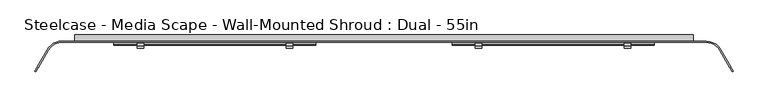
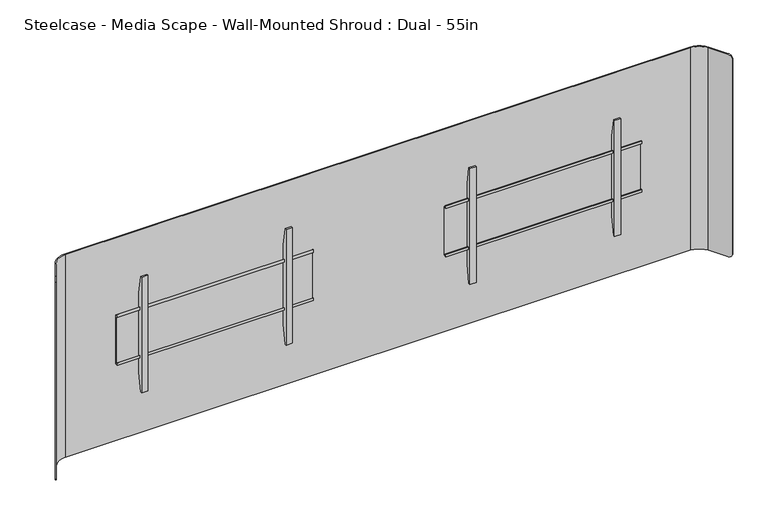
"""IFC4 building model written with IfcOpenShell, lengths in millimetres: furniture geometry, Steelcase - Media Scape - Wall-Mounted Shroud : Dual - 55in."""

from ifc_helpers import new_model, si_unit, frame, origin, place, context, project, spatial, polyline, circle_curve, outline, extrude, source, transform, mapped, element, save
from ifc_brep_helpers import plane_surface, cylinder_surface, revolved_surface, advanced_brep


def steelcase_media_scape_wall_mounted_shroud_dual_55in_971d0c28(model_context):
    return source(origin(), model_context, "Body", "SolidModel", [
        extrude(outline(polyline([(-42.4942785, 1383.7004726), (-42.4942785, 1395.7145649), (-39.8272175, 1395.7145649), (-39.8272175, 1386.367461), (-29.9720009, 1386.367461), (-29.9720009, 1172.0422438), (-42.3164551, 1172.0422438), (-42.3164551, 1182.9642515), (-39.649394, 1182.9642515), (-39.649394, 1174.707052), (-32.6531824, 1174.707052), (-32.6531824, 1383.7004726), (-42.4942785, 1383.7004726)])), frame((274.574, 0.0, 0.0), z_axis=(1.0, 0.0, 0.0), x_axis=(0.0, 1.0, 0.0)), (0.0, 0.0, 1.0), 812.8),
        extrude(outline(polyline([(-32.6531824, 1454.6471148), (-32.6531824, 1102.8325607), (-46.5049349, 1025.2046949), (-53.3399828, 1025.2046949), (-53.3399828, 1533.2047192), (-46.5050076, 1533.2047192), (-32.6531824, 1454.6471148)])), frame((368.175426, 0.0, 0.0), z_axis=(1.0, 0.0, 0.0), x_axis=(0.0, 1.0, 0.0)), (0.0, 0.0, 1.0), 26.1592872),
        extrude(outline(polyline([(-32.6531824, 1454.6471148), (-32.6531824, 1102.8325607), (-46.5049349, 1025.2046949), (-53.3399828, 1025.2046949), (-53.3399828, 1533.2047192), (-46.5050076, 1533.2047192), (-32.6531824, 1454.6471148)])), frame((967.6132868, 0.0, 0.0), z_axis=(1.0, 0.0, 0.0), x_axis=(0.0, 1.0, 0.0)), (0.0, 0.0, 1.0), 26.1592872),
        extrude(outline(polyline([(-42.4942785, 1383.7004726), (-42.4942785, 1395.7145649), (-39.8272175, 1395.7145649), (-39.8272175, 1386.367461), (-29.9720009, 1386.367461), (-29.9720009, 1172.0422438), (-42.3164551, 1172.0422438), (-42.3164551, 1182.9642515), (-39.649394, 1182.9642515), (-39.649394, 1174.707052), (-32.6531824, 1174.707052), (-32.6531824, 1383.7004726), (-42.4942785, 1383.7004726)])), frame((-1087.374, 0.0, 0.0), z_axis=(1.0, 0.0, 0.0), x_axis=(0.0, 1.0, 0.0)), (0.0, 0.0, 1.0), 812.8),
        extrude(outline(polyline([(-32.6531824, 1454.6471148), (-32.6531824, 1102.8325607), (-46.5049349, 1025.2046949), (-53.3399828, 1025.2046949), (-53.3399828, 1533.2047192), (-46.5050076, 1533.2047192), (-32.6531824, 1454.6471148)])), frame((-394.3347132, 0.0, 0.0), z_axis=(1.0, 0.0, 0.0), x_axis=(0.0, 1.0, 0.0)), (0.0, 0.0, 1.0), 26.1592872),
        extrude(outline(polyline([(-32.6531824, 1454.6471148), (-32.6531824, 1102.8325607), (-46.5049349, 1025.2046949), (-53.3399828, 1025.2046949), (-53.3399828, 1533.2047192), (-46.5050076, 1533.2047192), (-32.6531824, 1454.6471148)])), frame((-993.772574, 0.0, 0.0), z_axis=(1.0, 0.0, 0.0), x_axis=(0.0, 1.0, 0.0)), (0.0, 0.0, 1.0), 26.1592872),
        advanced_brep(
        [(-1351.4086135, -61.722, 1724.914), (-1296.416002, -29.9720009, 1724.914), (1296.416, -29.9720009, 1724.914), (1351.4086135, -61.722, 1724.914), (1391.529586, -131.2135628, 1724.914), (1395.4890541, -128.9275628, 1724.914), (1355.3680817, -59.436, 1724.914), (1296.416002, -25.4, 1724.914), (-1296.416, -25.4, 1724.914), (-1355.3680817, -59.436, 1724.914), (-1395.4921659, -128.9329524, 1724.914), (-1391.5326977, -131.2189524, 1724.914), (-1355.3680817, -59.436, 835.914), (-1296.416002, -25.4, 835.914), (1296.416, -25.4, 835.914), (1355.3680817, -59.436, 835.914), (1395.5406629, -129.0169518, 835.914), (1391.5811948, -131.3029518, 835.914), (1351.4086135, -61.722, 835.914), (1296.416002, -29.9720009, 835.914), (-1296.416, -29.9720009, 835.914), (-1351.4086135, -61.722, 835.914), (-1391.5954014, -131.3275584, 835.914), (-1395.5548695, -129.0415584, 835.914), (-1405.0590632, -145.5033047, 849.5242766), (-1405.0590632, -145.5033047, 1710.9227735), (-1401.0995951, -147.7893047, 1710.9227735), (-1401.0995951, -147.7893047, 849.5242766), (1401.0770866, -147.7503189, 849.4756893), (1401.0770866, -147.7503189, 1711.0433849), (1405.0365547, -145.4643189, 1711.0433849), (1405.0365547, -145.4643189, 849.4756893)],
        [
            (0, 1, circle_curve(frame((-1296.416002, -93.4719991, 1724.914), z_axis=(0.0, 0.0, -1.0), x_axis=(0.0, 1.0, 0.0)), 63.4999981)),
            (1, 2),
            (2, 3, circle_curve(frame((1296.416002, -93.4719991, 1724.914), z_axis=(0.0, 0.0, -1.0), x_axis=(0.0, 1.0, 0.0)), 63.4999981)),
            (3, 4),
            (4, 5),
            (5, 6),
            (6, 7, circle_curve(frame((1296.4160004, -93.472, 1724.914), z_axis=(0.0, 0.0, 1.0), x_axis=(0.0, 1.0, 0.0)), 68.072)),
            (7, 8),
            (8, 9, circle_curve(frame((-1296.4160004, -93.472, 1724.914), z_axis=(0.0, 0.0, 1.0), x_axis=(0.0, 1.0, 0.0)), 68.072)),
            (9, 10),
            (10, 11),
            (11, 0),
            (12, 13, circle_curve(frame((-1296.4160004, -93.472, 835.914), z_axis=(0.0, 0.0, -1.0), x_axis=(0.0, 1.0, 0.0)), 68.072)),
            (13, 14),
            (14, 15, circle_curve(frame((1296.4160004, -93.472, 835.914), z_axis=(0.0, 0.0, -1.0), x_axis=(0.0, 1.0, 0.0)), 68.072)),
            (15, 16),
            (16, 17),
            (17, 18),
            (18, 19, circle_curve(frame((1296.416002, -93.4719991, 835.914), z_axis=(0.0, 0.0, 1.0), x_axis=(0.0, 1.0, 0.0)), 63.4999981)),
            (19, 20),
            (20, 21, circle_curve(frame((-1296.416002, -93.4719991, 835.914), z_axis=(0.0, 0.0, 1.0), x_axis=(0.0, 1.0, 0.0)), 63.4999981)),
            (21, 22),
            (22, 23),
            (23, 12),
            (0, 21),
            (20, 1),
            (8, 13),
            (12, 9),
            (23, 24, circle_curve(frame((-1395.5548695, -129.0415584, 855.9928872), z_axis=(-0.8660254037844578, 0.49999999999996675, 0.0), x_axis=(-0.49999999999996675, -0.8660254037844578, 0.0)), 20.0788872)),
            (24, 25),
            (25, 10, circle_curve(frame((-1395.4921659, -128.9329524, 1704.8351128), z_axis=(-0.866025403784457, 0.49999999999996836, 0.0), x_axis=(-0.49999999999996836, -0.866025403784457, 0.0)), 20.0788872)),
            (26, 25),
            (24, 27),
            (27, 26),
            (11, 26, circle_curve(frame((-1391.5326977, -131.2189524, 1704.8351128), z_axis=(0.866025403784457, -0.49999999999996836, 0.0), x_axis=(-0.49999999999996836, -0.866025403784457, 0.0)), 20.0788872)),
            (27, 22, circle_curve(frame((-1391.5954014, -131.3275584, 855.9928872), z_axis=(0.8660254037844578, -0.49999999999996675, 0.0), x_axis=(-0.49999999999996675, -0.8660254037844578, 0.0)), 20.0788872)),
            (7, 14),
            (19, 2),
            (3, 18),
            (17, 28, circle_curve(frame((1391.5811948, -131.3029518, 855.9928872), z_axis=(-0.8660254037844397, -0.49999999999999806, 0.0), x_axis=(0.49999999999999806, -0.8660254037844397, 0.0)), 20.0788872)),
            (28, 29),
            (29, 4, circle_curve(frame((1391.529586, -131.2135628, 1704.8351128), z_axis=(-0.8660254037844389, -0.49999999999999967, 0.0), x_axis=(0.49999999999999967, -0.8660254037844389, 0.0)), 20.0788872)),
            (30, 29),
            (28, 31),
            (31, 30),
            (15, 6),
            (5, 30, circle_curve(frame((1395.4890541, -128.9275628, 1704.8351128), z_axis=(0.8660254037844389, 0.49999999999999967, 0.0), x_axis=(0.49999999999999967, -0.8660254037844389, 0.0)), 20.0788872)),
            (31, 16, circle_curve(frame((1395.5406629, -129.0169518, 855.9928872), z_axis=(0.8660254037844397, 0.49999999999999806, 0.0), x_axis=(0.49999999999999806, -0.8660254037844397, 0.0)), 20.0788872)),
        ],
        [
            plane_surface(frame((-1296.416002, -29.9720009, 1724.914), z_axis=(0.0, 0.0, 1.0), x_axis=(1.0, 0.0, 0.0))),
            plane_surface(frame((-1296.416002, -29.9720009, 835.914), z_axis=(0.0, 0.0, -1.0), x_axis=(-1.0, 0.0, 0.0))),
            revolved_surface(polyline([(-1296.416002, -29.972001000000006, 835.914), (-1296.416002, -29.972001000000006, 1724.914)]), (-1296.416002, -93.4719991, 835.914), (0.0, 0.0, -1.0)),
            cylinder_surface(frame((-1296.4160004, -93.472, 835.914), z_axis=(0.0, 0.0, 1.0), x_axis=(0.0, 1.0, 0.0)), 68.072),
            plane_surface(frame((-1355.3680817, -59.436, 1724.914), z_axis=(-0.866025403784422, 0.5000000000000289, 0.0), x_axis=(0.0, 0.0, -1.0))),
            plane_surface(frame((-1405.0590632, -145.5033047, 1724.914), z_axis=(-0.5000000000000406, -0.8660254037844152, 0.0), x_axis=(0.0, 0.0, -1.0))),
            plane_surface(frame((-1401.0995951, -147.7893047, 1724.914), z_axis=(0.8660254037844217, -0.5000000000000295, 0.0), x_axis=(0.0, 0.0, -1.0))),
            plane_surface(frame((1296.416, -25.4, 1724.914), z_axis=(0.0, 1.0, 0.0), x_axis=(0.0, 0.0, -1.0))),
            plane_surface(frame((-1296.416, -29.9720009, 1724.914), z_axis=(0.0, -1.0, 0.0), x_axis=(0.0, 0.0, -1.0))),
            plane_surface(frame((1351.4086135, -61.722, 1724.914), z_axis=(-0.8660254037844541, -0.4999999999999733, 0.0), x_axis=(0.0, 0.0, -1.0))),
            plane_surface(frame((1401.0770866, -147.7503189, 1724.914), z_axis=(0.4999999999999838, -0.866025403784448, 0.0), x_axis=(0.0, 0.0, -1.0))),
            plane_surface(frame((1405.0365547, -145.4643189, 1724.914), z_axis=(0.8660254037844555, 0.49999999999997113, 0.0), x_axis=(0.0, 0.0, -1.0))),
            cylinder_surface(frame((1296.4160004, -93.472, 835.914), z_axis=(0.0, 0.0, 1.0), x_axis=(0.0, 1.0, 0.0)), 68.072),
            revolved_surface(polyline([(1296.416002, -29.972001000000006, 835.914), (1296.416002, -29.972001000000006, 1724.914)]), (1296.416002, -93.4719991, 835.914), (0.0, 0.0, -1.0)),
            cylinder_surface(frame((-1391.5326977, -131.2189524, 1704.8351128), z_axis=(0.866025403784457, -0.49999999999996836, 0.0), x_axis=(-0.49999999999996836, -0.866025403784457, 0.0)), 20.0788872),
            cylinder_surface(frame((-1391.5954014, -131.3275584, 855.9928872), z_axis=(0.8660254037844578, -0.49999999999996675, 0.0), x_axis=(-0.49999999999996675, -0.8660254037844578, 0.0)), 20.0788872),
            cylinder_surface(frame((1406.6364297, -122.4916225, 1704.8351128), z_axis=(0.8660254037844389, 0.49999999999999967, 0.0), x_axis=(0.49999999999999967, -0.8660254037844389, 0.0)), 20.0788872),
            cylinder_surface(frame((1403.8289695, -124.2316958, 855.9928872), z_axis=(0.8660254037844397, 0.49999999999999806, 0.0), x_axis=(0.49999999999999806, -0.8660254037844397, 0.0)), 20.0788872),
        ],
        [
            (0, [[1, 2, 3, 4, 5, 6, 7, 8, 9, 10, 11, 12]]),
            (1, [[13, 14, 15, 16, 17, 18, 19, 20, 21, 22, 23, 24]]),
            (2, [[-1, 25, -21, 26]]),
            (3, [[-9, 27, -13, 28]]),
            (4, [[-28, -24, 29, 30, 31, -10]]),
            (5, [[32, -30, 33, 34]]),
            (6, [[-25, -12, 35, -34, 36, -22]]),
            (7, [[-8, 37, -14, -27]]),
            (8, [[-2, -26, -20, 38]]),
            (9, [[39, -18, 40, 41, 42, -4]]),
            (10, [[43, -41, 44, 45]]),
            (11, [[46, -6, 47, -45, 48, -16]]),
            (12, [[-7, -46, -15, -37]]),
            (13, [[-3, -38, -19, -39]]),
            (14, [[-11, -31, -32, -35]]),
            (15, [[-23, -36, -33, -29]]),
            (16, [[-5, -42, -43, -47]]),
            (17, [[-17, -48, -44, -40]]),
        ],
    ),
        extrude(outline(polyline([(912.1648167, 1181.0999879), (912.1648167, 1244.6), (1648.714, 1244.6), (1648.714, -1244.6), (912.1648167, -1244.6), (912.1648167, -1182.0933465), (1585.2139516, -1182.0933465), (1585.2139516, 1181.0999879), (912.1648167, 1181.0999879)])), frame((0.0, -25.4, 0.0), z_axis=(0.0, 1.0, 0.0), x_axis=(0.0, 0.0, 1.0)), (0.0, 0.0, 1.0), 25.4),
    ])


if __name__ == "__main__":
    model = new_model("IFC4")
    model_context = context("Model", 3, world=origin())
    ifc_project = project(units=[si_unit("LENGTHUNIT", "METRE", prefix="MILLI")], contexts=[model_context])
    site = spatial("IfcSite", under=ifc_project)
    building = spatial("IfcBuilding", under=site)
    placement = place(None, origin())
    steelcase_media_scape_wall_mounted_shroud_dual_55in_shape = steelcase_media_scape_wall_mounted_shroud_dual_55in_971d0c28(model_context)
    element("IfcFurniture", 1, ObjectType="Steelcase - Media Scape - Wall-Mounted Shroud : Dual - 55in", at=placement, inside=building, context=model_context, shape_type="MappedRepresentation", body=[
        mapped(steelcase_media_scape_wall_mounted_shroud_dual_55in_shape, transform((0.0, 0.0, 0.0), x_axis=(1.0, 0.0, 0.0), y_axis=(0.0, 1.0, 0.0), z_axis=(0.0, 0.0, 1.0))),
    ])
    save(model, "model.ifc")
